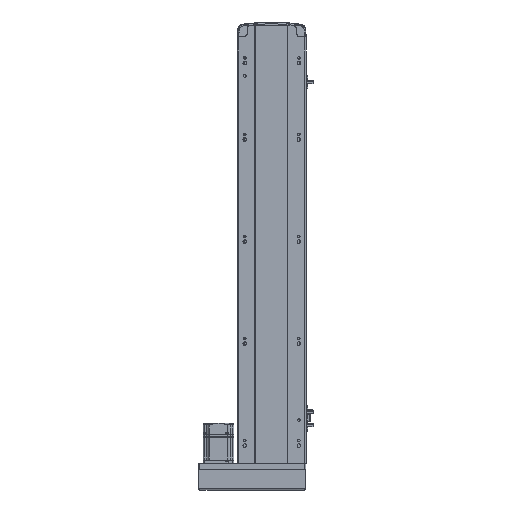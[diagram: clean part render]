
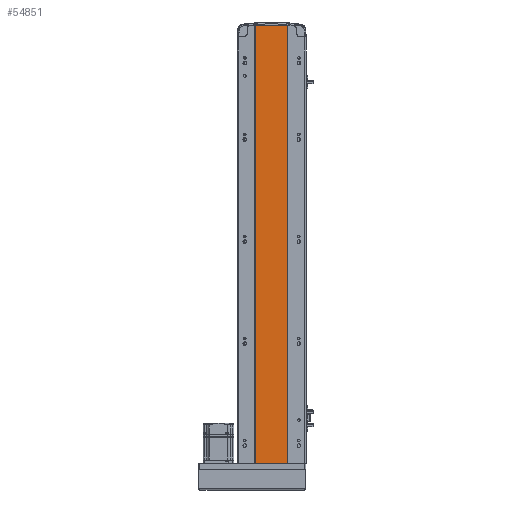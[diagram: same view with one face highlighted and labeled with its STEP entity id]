
A CAD part, front view. The second image highlights one B-rep face of the part: STEP entity #54851.
In plain terms, the highlighted planar face has unit normal (0, -1, 0).
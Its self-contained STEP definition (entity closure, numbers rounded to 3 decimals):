
#781 = CARTESIAN_POINT ( 'NONE',  ( -32., 1., 859. ) ) ;
#2434 = VECTOR ( 'NONE', #12743, 1000. ) ;
#3417 = DIRECTION ( 'NONE',  ( 1., 0., 0. ) ) ;
#5008 = CARTESIAN_POINT ( 'NONE',  ( -32., 1., 859. ) ) ;
#5535 = CARTESIAN_POINT ( 'NONE',  ( -32., 1., 859. ) ) ;
#5630 = AXIS2_PLACEMENT_3D ( 'NONE', #5008, #45135, #23003 ) ;
#6586 = EDGE_CURVE ( 'NONE', #30359, #32243, #9739, .T. ) ;
#7419 = EDGE_LOOP ( 'NONE', ( #8539, #24656, #21241, #53608 ) ) ;
#8539 = ORIENTED_EDGE ( 'NONE', *, *, #6586, .T. ) ;
#8695 = FACE_OUTER_BOUND ( 'NONE', #7419, .T. ) ;
#9739 = LINE ( 'NONE', #34809, #20161 ) ;
#10396 = LINE ( 'NONE', #31504, #56140 ) ;
#12538 = CARTESIAN_POINT ( 'NONE',  ( 30., 1., 0. ) ) ;
#12743 = DIRECTION ( 'NONE',  ( 0., 0., -1. ) ) ;
#13422 = LINE ( 'NONE', #781, #35646 ) ;
#14175 = CARTESIAN_POINT ( 'NONE',  ( -32., 1., 0. ) ) ;
#14221 = LINE ( 'NONE', #35269, #2434 ) ;
#17398 = CARTESIAN_POINT ( 'NONE',  ( 30., 1., 859. ) ) ;
#20161 = VECTOR ( 'NONE', #3417, 1000. ) ;
#21241 = ORIENTED_EDGE ( 'NONE', *, *, #49626, .F. ) ;
#22609 = PLANE ( 'NONE',  #5630 ) ;
#23003 = DIRECTION ( 'NONE',  ( -1., 0., 0. ) ) ;
#23202 = VERTEX_POINT ( 'NONE', #17398 ) ;
#24656 = ORIENTED_EDGE ( 'NONE', *, *, #35344, .F. ) ;
#26159 = VERTEX_POINT ( 'NONE', #5535 ) ;
#27473 = DIRECTION ( 'NONE',  ( 1., 0., 0. ) ) ;
#30015 = EDGE_CURVE ( 'NONE', #26159, #30359, #10396, .T. ) ;
#30359 = VERTEX_POINT ( 'NONE', #14175 ) ;
#31504 = CARTESIAN_POINT ( 'NONE',  ( -32., 1., 859. ) ) ;
#32243 = VERTEX_POINT ( 'NONE', #12538 ) ;
#34809 = CARTESIAN_POINT ( 'NONE',  ( -32., 1., 0. ) ) ;
#35269 = CARTESIAN_POINT ( 'NONE',  ( 30., 1., 859. ) ) ;
#35344 = EDGE_CURVE ( 'NONE', #23202, #32243, #14221, .T. ) ;
#35646 = VECTOR ( 'NONE', #27473, 1000. ) ;
#41012 = DIRECTION ( 'NONE',  ( 0., 0., -1. ) ) ;
#45135 = DIRECTION ( 'NONE',  ( 0., 1., 0. ) ) ;
#49626 = EDGE_CURVE ( 'NONE', #26159, #23202, #13422, .T. ) ;
#53608 = ORIENTED_EDGE ( 'NONE', *, *, #30015, .T. ) ;
#54851 = ADVANCED_FACE ( 'NONE', ( #8695 ), #22609, .F. ) ;
#56140 = VECTOR ( 'NONE', #41012, 1000. ) ;
